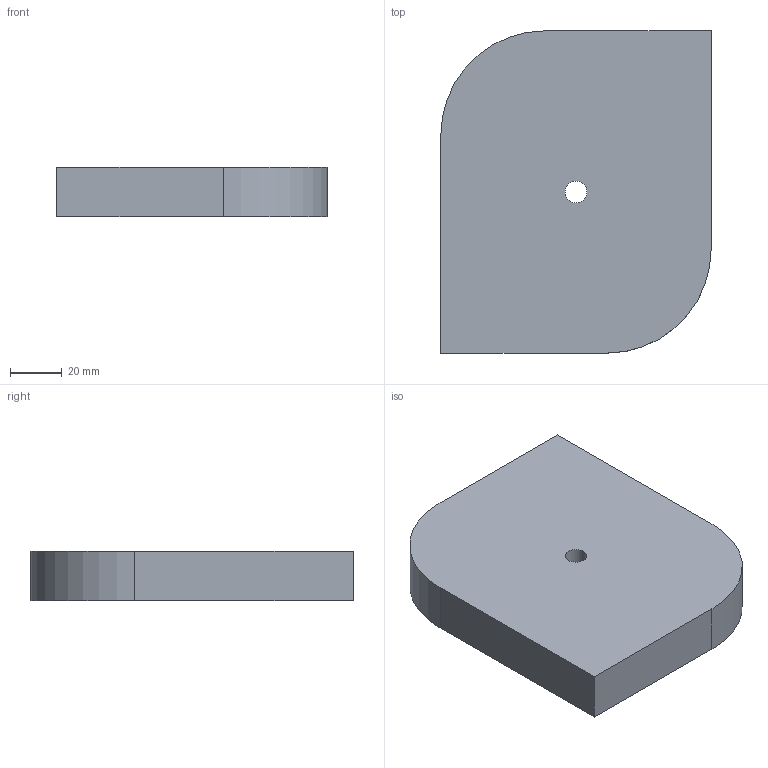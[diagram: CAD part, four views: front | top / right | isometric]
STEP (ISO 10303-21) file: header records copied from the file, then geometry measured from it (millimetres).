
FILE_DESCRIPTION(('CATIA V5 STEP Exchange'),'2;1');
FILE_NAME('C:\_Andres\UNIVERSIDAD\IQS\ASIGNATURAS\DAO\EXF\EXF-15161c\1original\Mas_Oliver_Ej01-plano_v14.stp','2016-03-04T14:59:45+00:00',('none'),('none'),'CATIA Version 5 Release 20 SP 1 (IN-10)','CATIA V5 STEP AP203','none');
FILE_SCHEMA(('CONFIG_CONTROL_DESIGN'));
Length unit declared in the file: millimetre
Products named in the file (1): Mas_Oliver_Ej01-plano_v14
Bounding box: 104 x 124 x 19 mm (x, y, z)
Volume: 230929.3 mm3; surface area: 32819.9 mm2
Topology: 1 solids, 1 shells, 10 faces, 24 edges, 16 vertices
Faces by surface type: plane 6, cylinder 4
Entity records: 333 total; most frequent: CARTESIAN_POINT 51, ORIENTED_EDGE 48, DIRECTION 44, EDGE_CURVE 24, AXIS2_PLACEMENT_3D 19, VECTOR 16, LINE 16, VERTEX_POINT 16
